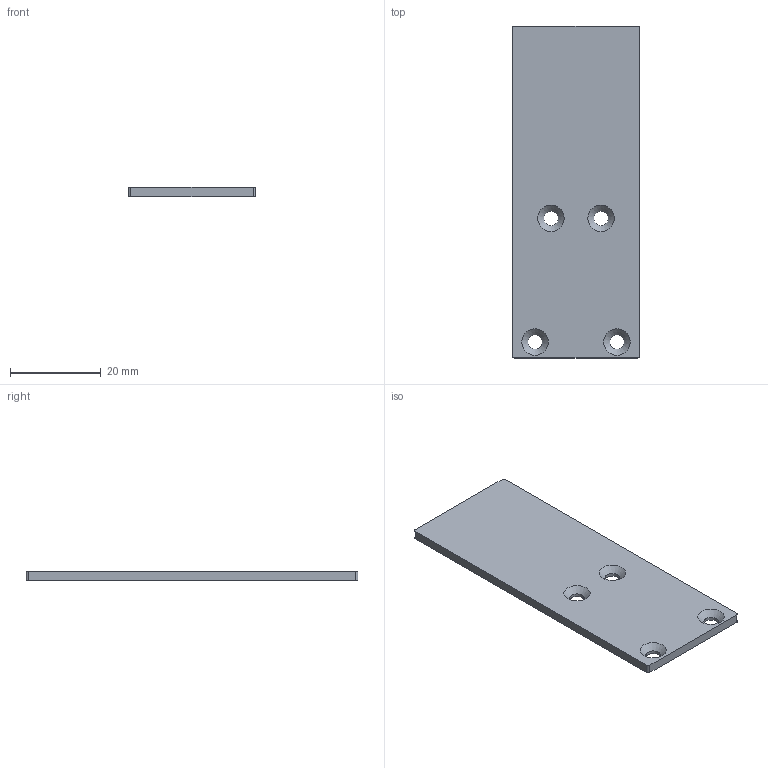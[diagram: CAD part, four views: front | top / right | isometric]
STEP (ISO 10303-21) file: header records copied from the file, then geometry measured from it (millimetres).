
FILE_DESCRIPTION(/* description */ ('Unknown'),/* implementation_level */ '2;1');
FILE_NAME(/* name */ '98466',/* time_stamp */ '2023-02-07T08:36:09-05:00',/* author */ ('Unknown'),/* organization */ ('Unknown'),/* preprocessor_version */ 'ST-DEVELOPER v18.1',/* originating_system */ 'Solid Edge',/* authorisation */ 'Unknown');
FILE_SCHEMA (('AUTOMOTIVE_DESIGN {1 0 10303 214 3 1 1}'));
Length unit declared in the file: millimetre
Products named in the file (1): LED-TAP136
Bounding box: 28 x 73 x 2 mm (x, y, z)
Volume: 3980 mm3; surface area: 4484.1 mm2
Topology: 1 solids, 1 shells, 18 faces, 48 edges, 32 vertices
Faces by surface type: cylinder 8, plane 6, cone 4
Full cylindrical faces by diameter (mm): 3.2 x4
Entity records: 542 total; most frequent: DIRECTION 94, CARTESIAN_POINT 83, ORIENTED_EDGE 72, AXIS2_PLACEMENT_3D 39, EDGE_CURVE 36, EDGE_LOOP 34, FACE_BOUND 34, VERTEX_POINT 28
